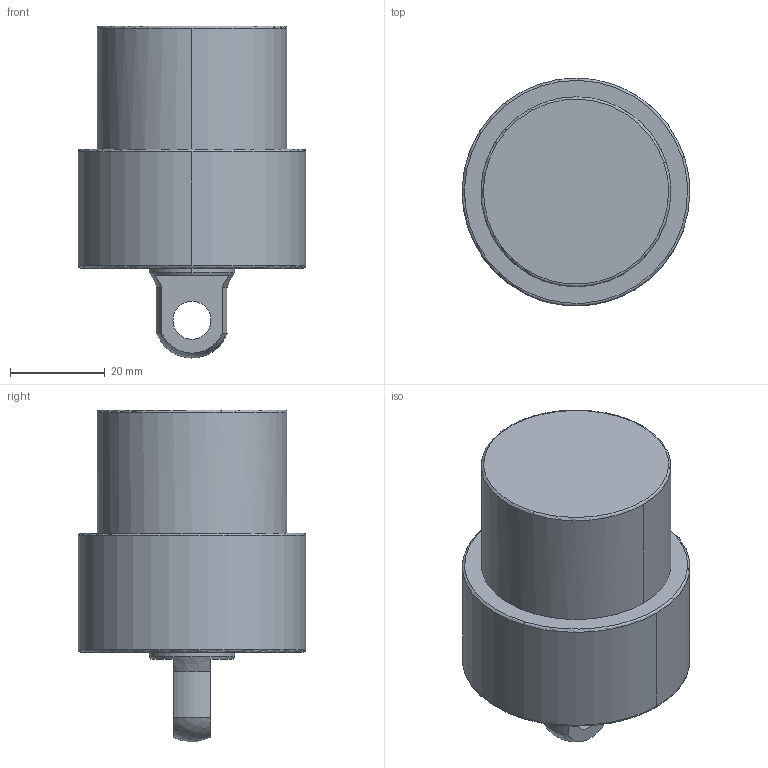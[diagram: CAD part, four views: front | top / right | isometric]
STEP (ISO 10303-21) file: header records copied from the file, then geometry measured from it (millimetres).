
FILE_DESCRIPTION((' '),'2;1');
FILE_NAME( 'TLLU-040GP-015.STEP.stp', '2025-10-24T16:37:15', (' '), ('--- Datakit www.datakit.com---'), ' Datakit CrossCadWare V2024.1 Dec 21 2023', 'Mastercam 2025', ' ');
FILE_SCHEMA(('AUTOMOTIVE_DESIGN { 1 0 10303 214 1 1 1 1 }'));
Length unit declared in the file: millimetre
Products named in the file (1): TLLU-040GP-015
Bounding box: 47.99 x 48 x 69.96 mm (x, y, z)
Volume: 78741.7 mm3; surface area: 12174.2 mm2
Topology: 1 solids, 1 shells, 56 faces, 167 edges, 113 vertices
Faces by surface type: cylinder 22, cone 18, plane 9, torus 6, sphere 1
Entity records: 1952 total; most frequent: DIRECTION 380, CARTESIAN_POINT 341, ORIENTED_EDGE 318, AXIS2_PLACEMENT_3D 168, EDGE_CURVE 159, VERTEX_POINT 113, CIRCLE 111, EDGE_LOOP 66
